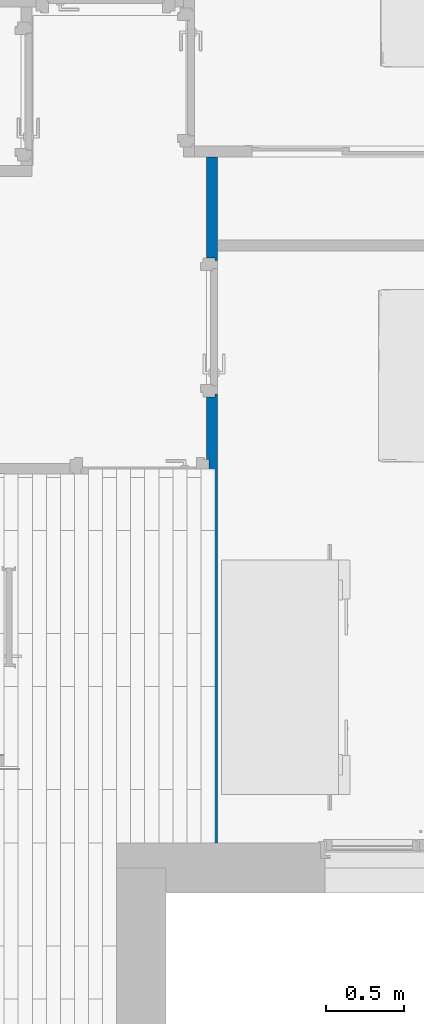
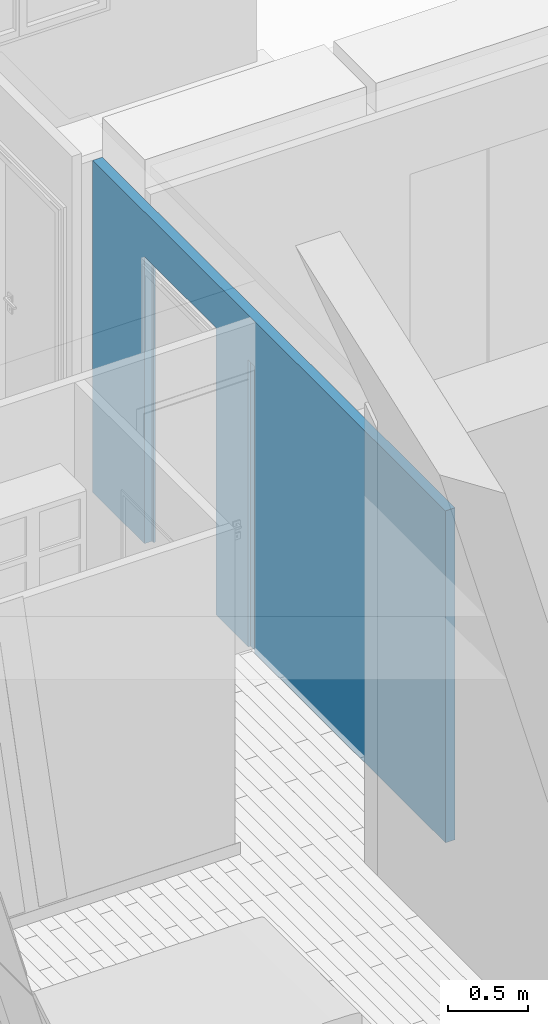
# One storey, part 40 of 61: 1 wall, 2 openings.
"""IFC2X3 building model written with IfcOpenShell, lengths in metres."""

from ifc_helpers import new_model, entity, si_unit, converted_unit, derived_unit, direction, frame, frame_2d, origin, place, context, subcontext, project, spatial, rectangle, extrude, faceted_brep, material, layer, layer_set, layer_usage, type_object, element, save


model = new_model("IFC2X3")

# Units and contexts
model_context = context("Model", 3, precision=1e-05, world=origin(), true_north=direction((6.12303176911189e-17, 1.0)))
body_context = subcontext(model_context, "Body", "Model", "MODEL_VIEW")
ifc_project = project(units=[si_unit("LENGTHUNIT", "METRE"), si_unit("AREAUNIT", "SQUARE_METRE"), si_unit("VOLUMEUNIT", "CUBIC_METRE"), converted_unit("PLANEANGLEUNIT", "DEGREE", entity("IfcRatioMeasure", 0.0174532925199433), si_unit("PLANEANGLEUNIT", "RADIAN"), dimensions=[0, 0, 0, 0, 0, 0, 0]), si_unit("MASSUNIT", "GRAM", prefix="KILO"), derived_unit("MASSDENSITYUNIT", [(si_unit("MASSUNIT", "GRAM", prefix="KILO"), 1), (si_unit("LENGTHUNIT", "METRE"), -3)]), si_unit("TIMEUNIT", "SECOND"), si_unit("FREQUENCYUNIT", "HERTZ"), si_unit("THERMODYNAMICTEMPERATUREUNIT", "DEGREE_CELSIUS"), derived_unit("THERMALTRANSMITTANCEUNIT", [(si_unit("MASSUNIT", "GRAM", prefix="KILO"), 1), (si_unit("THERMODYNAMICTEMPERATUREUNIT", "KELVIN"), -1), (si_unit("TIMEUNIT", "SECOND"), -3)]), derived_unit("VOLUMETRICFLOWRATEUNIT", [(si_unit("LENGTHUNIT", "METRE"), 3), (si_unit("TIMEUNIT", "SECOND"), -1)]), si_unit("ELECTRICCURRENTUNIT", "AMPERE"), si_unit("ELECTRICVOLTAGEUNIT", "VOLT"), si_unit("POWERUNIT", "WATT"), si_unit("FORCEUNIT", "NEWTON", prefix="KILO"), si_unit("ILLUMINANCEUNIT", "LUX"), si_unit("LUMINOUSFLUXUNIT", "LUMEN"), si_unit("LUMINOUSINTENSITYUNIT", "CANDELA"), derived_unit("USERDEFINED", [(si_unit("MASSUNIT", "GRAM", prefix="KILO"), -1), (si_unit("LENGTHUNIT", "METRE"), -2), (si_unit("TIMEUNIT", "SECOND"), 3), (si_unit("LUMINOUSFLUXUNIT", "LUMEN"), 1)]), derived_unit("LINEARVELOCITYUNIT", [(si_unit("LENGTHUNIT", "METRE"), 1), (si_unit("TIMEUNIT", "SECOND"), -1)]), si_unit("PRESSUREUNIT", "PASCAL"), derived_unit("USERDEFINED", [(si_unit("LENGTHUNIT", "METRE"), -2), (si_unit("MASSUNIT", "GRAM", prefix="KILO"), 1), (si_unit("TIMEUNIT", "SECOND"), -2)])], contexts=[model_context])

# Site, building, storey
site_placement = place(None, origin())
site = spatial("IfcSite", under=ifc_project, at=site_placement, Name="Surface", CompositionType="ELEMENT")
building_placement = place(site_placement, origin())
building = spatial("IfcBuilding", under=site, at=building_placement, CompositionType="ELEMENT")
storey_placement = place(building_placement, frame((0.0, 0.0, 2.82)))
storey = spatial("IfcBuildingStorey", under=building, at=storey_placement, Name="ETAGE", CompositionType="ELEMENT", Elevation=2.82)

# Wall, openings
ifc_material = material(Name="Peinture - Blanc")
ifc_layer = layer(ifc_material, 0.07)
ifc_layer_set = layer_set([ifc_layer], Name="Mur de base:Int.  Platre 70 mm en blanc")
ifc_layer_usage = layer_usage(ifc_layer_set, "AXIS2", "NEGATIVE", 0.035)
wall_type = type_object("IfcWallType", Name="Mur de base:Int.  Platre 70 mm en blanc", PredefinedType="STANDARD", material=ifc_layer_set)
wall_placement = place(storey_placement, frame((87.6617857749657, 84.2475239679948, 0.0), z_axis=(0.0, 0.0, 1.0), x_axis=(0.0, 1.0, 0.0)))
wall = element("IfcWallStandardCase", 1, at=wall_placement, inside=storey, type_object=wall_type, material=ifc_layer_usage, Name="Mur de base:Int.  Platre 70 mm en blanc", ObjectType="Mur de base:Int.  Platre 70 mm en blanc", context=body_context, shape_type="SweptSolid", body=[
    extrude(rectangle(XDim=4.38999999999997, YDim=0.0699999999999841, at=frame_2d((2.19499999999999, 0.0), x_axis=(-1.0, 0.0))), origin(), (0.0, 0.0, 1.0), 2.52000000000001),
])
opening_1_placement = place(wall_placement, frame((2.18000000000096, 0.909999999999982, 0.0)))
element("IfcOpeningElement", 2, at=opening_1_placement, cuts=wall, Name="Mur de base:Int.  Platre 70 mm en blanc", ObjectType="Opening", context=body_context, shape_type="Brep", body=[
    faceted_brep([(0.0, -0.0799999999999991, 2.09999999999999), (0.0, -0.0799999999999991, 0.0), (0.0, -0.810000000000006, 0.0), (0.0, -0.810000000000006, 2.09999999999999), (0.893399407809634, -0.0799999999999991, 2.09999999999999), (0.893399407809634, -0.810000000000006, 2.09999999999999), (0.893399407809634, -0.810000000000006, 0.0), (0.893399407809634, -0.0799999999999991, 0.0), (0.179999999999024, -0.0799999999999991, 2.09999999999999), (0.179999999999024, -0.0799999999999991, 0.0), (0.179999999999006, -0.0180000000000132, 0.0), (0.19499999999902, -0.0180000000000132, 0.0), (0.19499999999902, 0.0, 0.0), (0.272999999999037, 0.0, 0.0), (0.272999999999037, -0.0290000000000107, 0.0), (0.249999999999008, -0.0290000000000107, 0.0), (0.249999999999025, -0.0799999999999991, 0.0), (0.249999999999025, -0.810000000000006, 0.0), (0.249999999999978, -0.860999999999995, 0.0), (0.27299999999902, -0.860999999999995, 0.0), (0.27299999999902, -0.890000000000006, 0.0), (0.19499999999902, -0.890000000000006, 0.0), (0.19499999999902, -0.871999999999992, 0.0), (0.179999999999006, -0.871999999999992, 0.0), (0.179999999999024, -0.809999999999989, 0.0), (0.179999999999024, -0.809999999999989, 2.09999999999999), (0.249999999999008, -0.0290000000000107, 2.15099999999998), (0.249999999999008, -0.860999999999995, 2.15099999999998), (0.249999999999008, -0.810000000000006, 2.09999999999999), (0.249999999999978, -0.820999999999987, 2.09999999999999), (0.249999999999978, -0.820999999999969, 2.11099999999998), (0.249999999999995, -0.0690000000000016, 2.11099999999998), (0.249999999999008, -0.069000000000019, 2.09999999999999), (0.249999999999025, -0.0799999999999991, 2.09999999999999), (0.179999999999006, -0.871999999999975, 2.16199999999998), (0.179999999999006, -0.0179999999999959, 2.16199999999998), (0.250499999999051, -0.0690000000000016, 2.09999999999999), (0.250499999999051, -0.0690000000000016, 2.11099999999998), (0.250499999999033, -0.820999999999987, 2.11099999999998), (0.250499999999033, -0.820999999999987, 2.09999999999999), (0.250499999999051, -0.809999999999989, 2.09999999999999), (0.250499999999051, -0.0799999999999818, 2.09999999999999), (0.19499999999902, -0.0179999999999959, 2.16199999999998), (0.19499999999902, -0.871999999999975, 2.16199999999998), (0.19499999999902, -0.889999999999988, 2.17999999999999), (0.19499999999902, 0.0, 2.17999999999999), (0.27299999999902, 0.0, 2.17999999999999), (0.27299999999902, -0.889999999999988, 2.17999999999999), (0.27299999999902, -0.860999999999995, 2.15099999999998), (0.27299999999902, -0.0290000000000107, 2.15099999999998)], [[[0, 1, 2, 3]], [[4, 5, 6, 7]], [[0, 8, 9, 1]], [[1, 9, 10, 11, 12, 13, 14, 15, 16, 7, 6, 17, 18, 19, 20, 21, 22, 23, 24, 2]], [[2, 24, 25, 3]], [[3, 25, 8, 0]], [[15, 26, 27, 18, 17, 28, 29, 30, 31, 32, 33, 16]], [[9, 8, 25, 24, 23, 34, 35, 10]], [[36, 32, 31, 37]], [[38, 30, 29, 39]], [[37, 31, 30, 38]], [[39, 40, 41, 36, 37, 38]], [[41, 33, 32, 36]], [[10, 35, 42, 11]], [[11, 42, 43, 22, 21, 44, 45, 12]], [[12, 45, 46, 13]], [[13, 46, 47, 20, 19, 48, 49, 14]], [[14, 49, 26, 15]], [[34, 43, 42, 35]], [[44, 47, 46, 45]], [[26, 49, 48, 27]], [[23, 22, 43, 34]], [[21, 20, 47, 44]], [[27, 48, 19, 18]], [[39, 29, 28, 40]], [[4, 41, 40, 5]], [[5, 40, 28, 17, 6]], [[7, 16, 33, 41, 4]]]),
])
opening_2_placement = place(wall_placement, frame((2.85499999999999, 0.678399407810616, 0.0), z_axis=(0.0, 0.0, 1.0), x_axis=(0.0, -1.0, 0.0)))
element("IfcOpeningElement", 3, at=opening_2_placement, cuts=wall, Name="Mur de base:Int.  Platre 70 mm en blanc", ObjectType="Opening", context=body_context, shape_type="Brep", body=[
    faceted_brep([(0.893399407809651, 0.810000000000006, 2.09999999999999), (0.893399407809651, 0.0799999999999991, 2.09999999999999), (0.893399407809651, 0.0799999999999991, 0.0), (0.893399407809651, 0.810000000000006, 0.0), (0.0, 0.810000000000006, 2.09999999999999), (0.0, 0.810000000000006, 0.0), (0.0, 0.0799999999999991, 0.0), (0.0, 0.0799999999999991, 2.09999999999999), (0.71339940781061, 0.810000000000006, 0.0), (0.71339940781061, 0.810000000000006, 2.09999999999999), (0.713399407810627, 0.0799999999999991, 0.0), (0.713399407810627, 0.0180000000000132, 0.0), (0.698399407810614, 0.0180000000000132, 0.0), (0.698399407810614, 0.0, 0.0), (0.620399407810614, 0.0, 0.0), (0.620399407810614, 0.0290000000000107, 0.0), (0.643399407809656, 0.0290000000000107, 0.0), (0.643399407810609, 0.0800000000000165, 0.0), (0.643399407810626, 0.810000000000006, 0.0), (0.643399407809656, 0.860999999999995, 0.0), (0.620399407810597, 0.860999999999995, 0.0), (0.620399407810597, 0.890000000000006, 0.0), (0.698399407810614, 0.890000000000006, 0.0), (0.698399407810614, 0.871999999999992, 0.0), (0.713399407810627, 0.871999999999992, 0.0), (0.71339940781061, 0.0800000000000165, 2.09999999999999), (0.643399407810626, 0.810000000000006, 2.09999999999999), (0.643399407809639, 0.821000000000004, 2.09999999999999), (0.643399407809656, 0.821000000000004, 2.11099999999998), (0.643399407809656, 0.069000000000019, 2.11099999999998), (0.643399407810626, 0.069000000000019, 2.09999999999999), (0.643399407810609, 0.0800000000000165, 2.09999999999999), (0.643399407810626, 0.0290000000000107, 2.15099999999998), (0.643399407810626, 0.860999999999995, 2.15099999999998), (0.713399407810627, 0.87200000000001, 2.16199999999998), (0.713399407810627, 0.0180000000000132, 2.16199999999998), (0.642899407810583, 0.821000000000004, 2.09999999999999), (0.642899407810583, 0.821000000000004, 2.11099999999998), (0.6428994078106, 0.069000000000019, 2.11099999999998), (0.6428994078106, 0.069000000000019, 2.09999999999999), (0.642899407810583, 0.810000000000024, 2.09999999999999), (0.642899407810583, 0.0800000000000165, 2.09999999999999), (0.698399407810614, 0.87200000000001, 2.16199999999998), (0.698399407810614, 0.890000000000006, 2.17999999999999), (0.698399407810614, 0.0, 2.17999999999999), (0.698399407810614, 0.0180000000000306, 2.16199999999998), (0.620399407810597, 0.890000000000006, 2.17999999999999), (0.620399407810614, 0.860999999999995, 2.15099999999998), (0.620399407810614, 0.0290000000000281, 2.15099999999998), (0.620399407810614, 0.0, 2.17999999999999)], [[[0, 1, 2, 3]], [[4, 5, 6, 7]], [[0, 3, 8, 9]], [[3, 2, 10, 11, 12, 13, 14, 15, 16, 17, 6, 5, 18, 19, 20, 21, 22, 23, 24, 8]], [[2, 1, 25, 10]], [[1, 0, 9, 25]], [[19, 18, 26, 27, 28, 29, 30, 31, 17, 16, 32, 33]], [[8, 24, 34, 35, 11, 10, 25, 9]], [[36, 37, 28, 27]], [[38, 39, 30, 29]], [[37, 38, 29, 28]], [[39, 38, 37, 36, 40, 41]], [[40, 36, 27, 26]], [[24, 23, 42, 34]], [[23, 22, 43, 44, 13, 12, 45, 42]], [[22, 21, 46, 43]], [[21, 20, 47, 48, 15, 14, 49, 46]], [[20, 19, 33, 47]], [[35, 34, 42, 45]], [[44, 43, 46, 49]], [[33, 32, 48, 47]], [[11, 35, 45, 12]], [[13, 44, 49, 14]], [[32, 16, 15, 48]], [[39, 41, 31, 30]], [[4, 7, 41, 40]], [[7, 6, 17, 31, 41]], [[5, 4, 40, 26, 18]]]),
])

save(model, "model.ifc")
